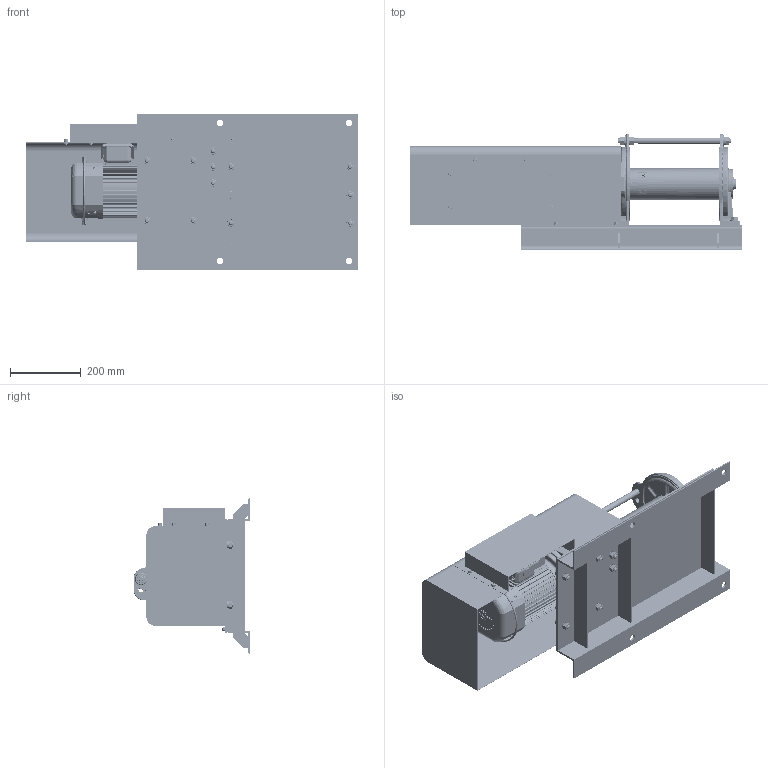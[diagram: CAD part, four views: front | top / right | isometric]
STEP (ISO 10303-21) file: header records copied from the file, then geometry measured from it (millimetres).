
FILE_DESCRIPTION( (''), '2;1');
FILE_NAME ('GLF-750.stp','2023-08-03T10:40:05',(''),(''),'spGate 19.8.2 (****-****-****-****)','','');
FILE_SCHEMA (('AUTOMOTIVE_DESIGN'));
Length unit declared in the file: millimetre
Products named in the file (2): Assembly; GLF-750-prt0
Assembly tree (1 placements, depth 2):
  Assembly
    GLF-750-prt0
Bounding box: 940.5 x 331 x 440 mm (x, y, z)
Volume: 14830134.6 mm3; surface area: 3166595.1 mm2
Topology: 1 solids, 1 shells, 4040 faces, 10519 edges, 6711 vertices
Faces by surface type: plane 1815, cylinder 1357, bspline 774, sphere 94
Entity records: 251950 total; most frequent: CARTESIAN_POINT 75924, ORIENTED_EDGE 20884, DIRECTION 18099, COLOUR_RGB 14482, PRESENTATION_STYLE_ASSIGNMENT 14482, STYLED_ITEM 14482, EDGE_CURVE 10442, DRAUGHTING_PRE_DEFINED_CURVE_FONT 10442
